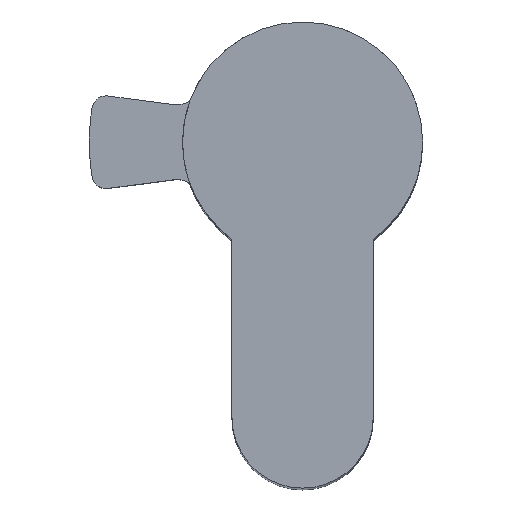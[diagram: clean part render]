
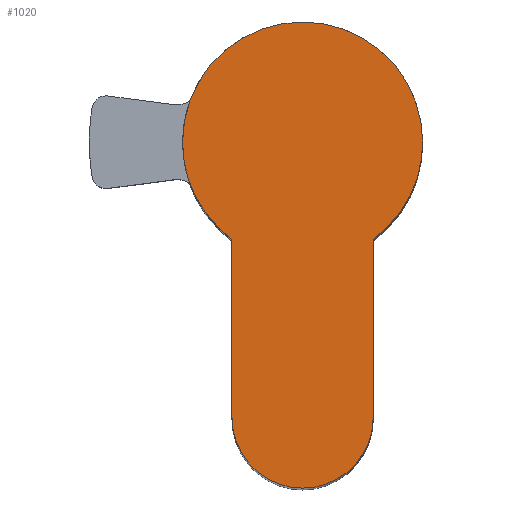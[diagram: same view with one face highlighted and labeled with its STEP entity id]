
A CAD part, top view. The second image highlights one B-rep face of the part: STEP entity #1020.
In plain terms, the highlighted planar face has unit normal (0, 0, 1).
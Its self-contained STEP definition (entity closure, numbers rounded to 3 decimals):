
#31 = DIRECTION ( 'NONE',  ( 1., 0., 0. ) ) ;
#61 = CARTESIAN_POINT ( 'NONE',  ( -5., -6.874, 10. ) ) ;
#79 = AXIS2_PLACEMENT_3D ( 'NONE', #429, #904, #794 ) ;
#129 = CARTESIAN_POINT ( 'NONE',  ( 0., 0., 10. ) ) ;
#145 = CIRCLE ( 'NONE', #172, 8.5 ) ;
#172 = AXIS2_PLACEMENT_3D ( 'NONE', #470, #1329, #597 ) ;
#208 = VECTOR ( 'NONE', #1169, 1000. ) ;
#244 = CARTESIAN_POINT ( 'NONE',  ( 8.5, 0., 10. ) ) ;
#247 = CARTESIAN_POINT ( 'NONE',  ( 5., -19.5, 10. ) ) ;
#264 = DIRECTION ( 'NONE',  ( 0., 0., 1. ) ) ;
#322 = VERTEX_POINT ( 'NONE', #369 ) ;
#360 = PLANE ( 'NONE',  #1116 ) ;
#369 = CARTESIAN_POINT ( 'NONE',  ( 5., -19.5, 10. ) ) ;
#402 = CIRCLE ( 'NONE', #786, 8.5 ) ;
#412 = ORIENTED_EDGE ( 'NONE', *, *, #1430, .T. ) ;
#429 = CARTESIAN_POINT ( 'NONE',  ( 0., -19.5, 10. ) ) ;
#470 = CARTESIAN_POINT ( 'NONE',  ( 0., 0., 10. ) ) ;
#478 = VERTEX_POINT ( 'NONE', #1231 ) ;
#559 = VERTEX_POINT ( 'NONE', #667 ) ;
#568 = ORIENTED_EDGE ( 'NONE', *, *, #1307, .T. ) ;
#580 = DIRECTION ( 'NONE',  ( 0., 0., 1. ) ) ;
#597 = DIRECTION ( 'NONE',  ( 1., 0., 0. ) ) ;
#606 = LINE ( 'NONE', #247, #1184 ) ;
#667 = CARTESIAN_POINT ( 'NONE',  ( -5., -6.874, 10. ) ) ;
#668 = EDGE_CURVE ( 'NONE', #322, #851, #606, .T. ) ;
#670 = ORIENTED_EDGE ( 'NONE', *, *, #709, .T. ) ;
#709 = EDGE_CURVE ( 'NONE', #478, #559, #145, .T. ) ;
#786 = AXIS2_PLACEMENT_3D ( 'NONE', #129, #264, #31 ) ;
#794 = DIRECTION ( 'NONE',  ( 1., 0., 0. ) ) ;
#820 = CARTESIAN_POINT ( 'NONE',  ( 0., 0., 10. ) ) ;
#829 = DIRECTION ( 'NONE',  ( 0., 1., 0. ) ) ;
#851 = VERTEX_POINT ( 'NONE', #1376 ) ;
#904 = DIRECTION ( 'NONE',  ( 0., 0., 1. ) ) ;
#964 = DIRECTION ( 'NONE',  ( 0., 0., 1. ) ) ;
#972 = ORIENTED_EDGE ( 'NONE', *, *, #1359, .T. ) ;
#991 = ORIENTED_EDGE ( 'NONE', *, *, #668, .T. ) ;
#1013 = CIRCLE ( 'NONE', #79, 5. ) ;
#1020 = ADVANCED_FACE ( 'NONE', ( #1201 ), #360, .T. ) ;
#1049 = LINE ( 'NONE', #61, #208 ) ;
#1116 = AXIS2_PLACEMENT_3D ( 'NONE', #820, #580, #1439 ) ;
#1154 = ORIENTED_EDGE ( 'NONE', *, *, #1176, .T. ) ;
#1169 = DIRECTION ( 'NONE',  ( 0., -1., 0. ) ) ;
#1176 = EDGE_CURVE ( 'NONE', #1516, #478, #402, .T. ) ;
#1184 = VECTOR ( 'NONE', #829, 1000. ) ;
#1201 = FACE_OUTER_BOUND ( 'NONE', #1268, .T. ) ;
#1231 = CARTESIAN_POINT ( 'NONE',  ( -8.5, 0., 10. ) ) ;
#1268 = EDGE_LOOP ( 'NONE', ( #412, #1154, #670, #568, #972, #991 ) ) ;
#1299 = DIRECTION ( 'NONE',  ( 1., 0., 0. ) ) ;
#1307 = EDGE_CURVE ( 'NONE', #559, #1562, #1049, .T. ) ;
#1323 = CARTESIAN_POINT ( 'NONE',  ( 0., 0., 10. ) ) ;
#1325 = CIRCLE ( 'NONE', #1377, 8.5 ) ;
#1329 = DIRECTION ( 'NONE',  ( 0., 0., 1. ) ) ;
#1359 = EDGE_CURVE ( 'NONE', #1562, #322, #1013, .T. ) ;
#1376 = CARTESIAN_POINT ( 'NONE',  ( 5., -6.874, 10. ) ) ;
#1377 = AXIS2_PLACEMENT_3D ( 'NONE', #1323, #964, #1299 ) ;
#1430 = EDGE_CURVE ( 'NONE', #851, #1516, #1325, .T. ) ;
#1439 = DIRECTION ( 'NONE',  ( 1., 0., 0. ) ) ;
#1492 = CARTESIAN_POINT ( 'NONE',  ( -5., -19.5, 10. ) ) ;
#1516 = VERTEX_POINT ( 'NONE', #244 ) ;
#1562 = VERTEX_POINT ( 'NONE', #1492 ) ;
